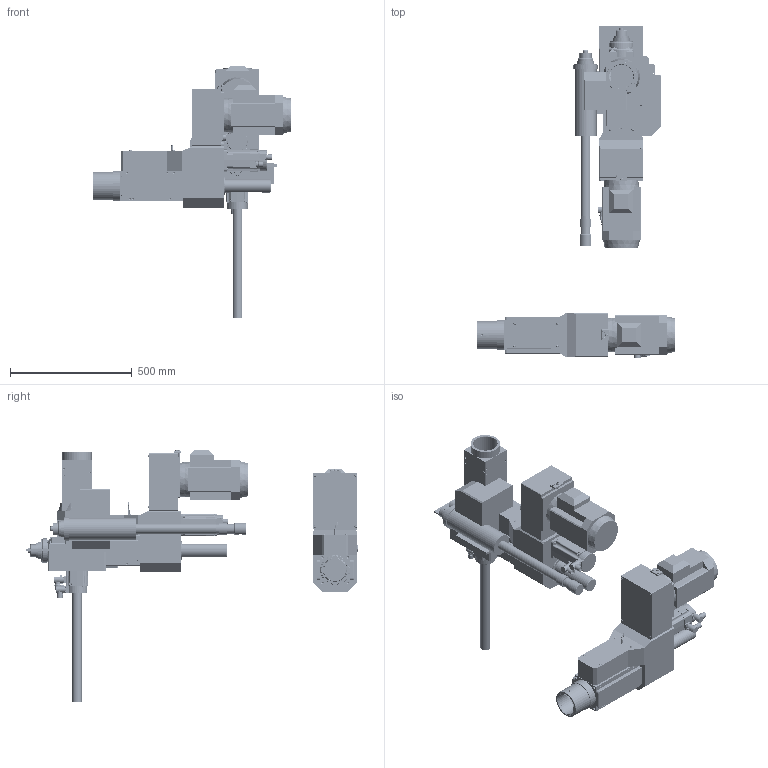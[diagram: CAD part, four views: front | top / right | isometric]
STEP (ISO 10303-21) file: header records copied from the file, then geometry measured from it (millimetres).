
FILE_DESCRIPTION( ( 'STEP AP203' ), '1' );
FILE_NAME( 'C:/Documents and Settings/Saverio/Desktop/disegni ironcad/unità serie 2/FMT 232 CN/FMT 232 CN_HSK40automatic.stp', '2013-11-28T10:22:30', ( ' ' ), ( ' ' ), 'XStep 1.0', ' ', ' ' );
FILE_SCHEMA( ( 'CONFIG_CONTROL_DESIGN' ) );
Length unit declared in the file: metre
Products named in the file (41): Assem1; Assem2; Assem3; 1; 2; 3; 4; 5; 6; 7; 8; 9; 10; 11; 12; 13; 14; 15; 16; 17; 18; 19; 20; 21; 22; 23; 24; 25; 26; 27; 28; 29; 30; 31; 32; 33; 34; 35; 36; 37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
Bounding box: 814.5 x 1362.82 x 1035 mm (x, y, z)
Volume: 86582858.2 mm3; surface area: 5773965.4 mm2
Topology: 134 solids, 137 shells, 4737 faces, 11733 edges, 7640 vertices
Faces by surface type: plane 2300, cylinder 1642, cone 637, torus 86, bspline 72
Full cylindrical faces by diameter (mm): 1 x18, 2 x12, 3 x6, 4 x23, 4.2 x15, 4.5 x48, 4.918 x6, 5 x27, 5.5 x12, 6 x30, 6.5 x3, 7 x53, 7.4 x24, 8 x30, 8.5 x12, 9.87 x3, 10 x9, 13.5 x12, 18 x3, 18.3 x3, 19 x3, 19.2 x3, 20 x24, 21.7 x6, 22.7 x6, 25 x3, 26.7 x6, 35 x3, 40 x9, 42 x3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
Entity records: 46664 total; most frequent: CARTESIAN_POINT 11347, DIRECTION 7072, ORIENTED_EDGE 6338, EDGE_CURVE 3169, AXIS2_PLACEMENT_3D 2746, VERTEX_POINT 2283, EDGE_LOOP 2030, FACE_OUTER_BOUND 1673
